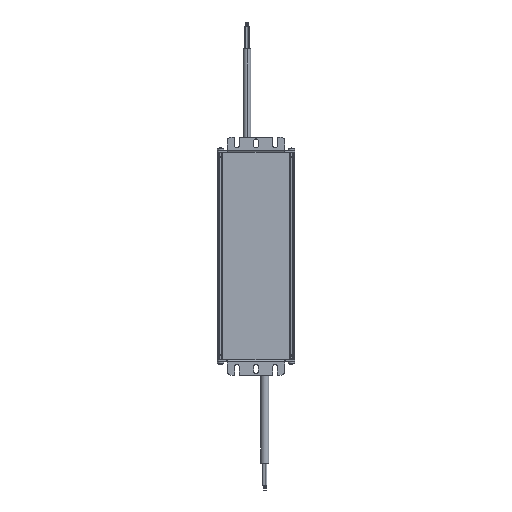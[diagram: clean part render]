
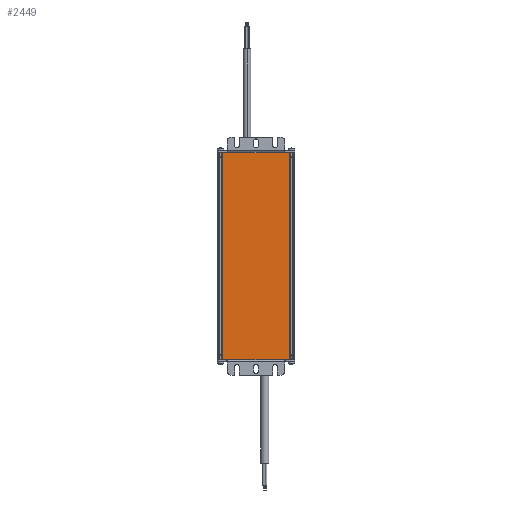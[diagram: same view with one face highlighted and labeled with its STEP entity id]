
A CAD part, front view. The second image highlights one B-rep face of the part: STEP entity #2449.
In plain terms, the highlighted planar face has unit normal (0, -1, 0).
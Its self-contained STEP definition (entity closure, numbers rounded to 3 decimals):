
#1094 = DIRECTION ( 'NONE',  ( -1., 0., 0. ) ) ;
#1328 = ORIENTED_EDGE ( 'NONE', *, *, #8152, .T. ) ;
#2177 = AXIS2_PLACEMENT_3D ( 'NONE', #28239, #21652, #8513 ) ;
#2449 = ADVANCED_FACE ( 'NONE', ( #12377 ), #26009, .F. ) ;
#2680 = VECTOR ( 'NONE', #2762, 1000. ) ;
#2682 = CARTESIAN_POINT ( 'NONE',  ( -29.766, -20.5, -92.5 ) ) ;
#2762 = DIRECTION ( 'NONE',  ( 0., 0., -1. ) ) ;
#3329 = CARTESIAN_POINT ( 'NONE',  ( -34., -20.5, -92.5 ) ) ;
#3701 = ORIENTED_EDGE ( 'NONE', *, *, #23058, .T. ) ;
#4569 = LINE ( 'NONE', #3329, #20689 ) ;
#4893 = VECTOR ( 'NONE', #27968, 1000. ) ;
#5341 = CARTESIAN_POINT ( 'NONE',  ( 29.766, -20.5, -92.5 ) ) ;
#5812 = VECTOR ( 'NONE', #23130, 1000. ) ;
#6977 = VERTEX_POINT ( 'NONE', #2682 ) ;
#8015 = EDGE_CURVE ( 'NONE', #28491, #6977, #4569, .T. ) ;
#8152 = EDGE_CURVE ( 'NONE', #28491, #19339, #22407, .T. ) ;
#8513 = DIRECTION ( 'NONE',  ( 0., 0., 1. ) ) ;
#9151 = ORIENTED_EDGE ( 'NONE', *, *, #8015, .F. ) ;
#9370 = EDGE_LOOP ( 'NONE', ( #1328, #24406, #3701, #9151 ) ) ;
#11060 = CARTESIAN_POINT ( 'NONE',  ( 29.766, -20.5, 92.5 ) ) ;
#11641 = LINE ( 'NONE', #27530, #5812 ) ;
#12377 = FACE_OUTER_BOUND ( 'NONE', #9370, .T. ) ;
#12657 = CARTESIAN_POINT ( 'NONE',  ( 29.766, -20.5, 125. ) ) ;
#13742 = CARTESIAN_POINT ( 'NONE',  ( -29.766, -20.5, -125. ) ) ;
#16977 = VERTEX_POINT ( 'NONE', #28127 ) ;
#19339 = VERTEX_POINT ( 'NONE', #11060 ) ;
#20689 = VECTOR ( 'NONE', #1094, 1000. ) ;
#21652 = DIRECTION ( 'NONE',  ( 0., 1., 0. ) ) ;
#22407 = LINE ( 'NONE', #12657, #4893 ) ;
#23058 = EDGE_CURVE ( 'NONE', #16977, #6977, #26089, .T. ) ;
#23130 = DIRECTION ( 'NONE',  ( -1., 0., 0. ) ) ;
#24406 = ORIENTED_EDGE ( 'NONE', *, *, #27962, .T. ) ;
#26009 = PLANE ( 'NONE',  #2177 ) ;
#26089 = LINE ( 'NONE', #13742, #2680 ) ;
#27530 = CARTESIAN_POINT ( 'NONE',  ( -34., -20.5, 92.5 ) ) ;
#27962 = EDGE_CURVE ( 'NONE', #19339, #16977, #11641, .T. ) ;
#27968 = DIRECTION ( 'NONE',  ( 0., 0., 1. ) ) ;
#28127 = CARTESIAN_POINT ( 'NONE',  ( -29.766, -20.5, 92.5 ) ) ;
#28239 = CARTESIAN_POINT ( 'NONE',  ( -34., -20.5, 125. ) ) ;
#28491 = VERTEX_POINT ( 'NONE', #5341 ) ;
